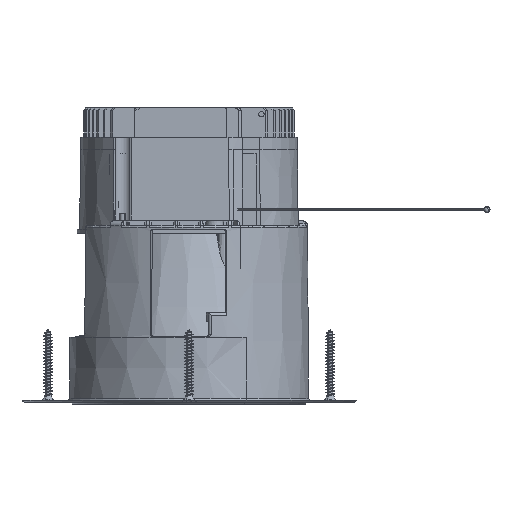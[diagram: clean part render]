
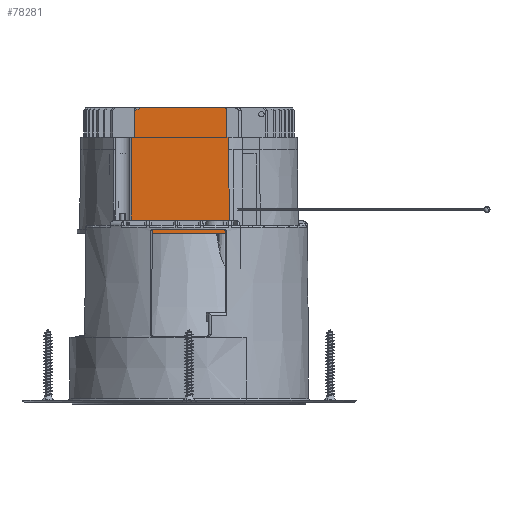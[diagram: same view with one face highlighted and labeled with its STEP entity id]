
A CAD part, front view. The second image highlights one B-rep face of the part: STEP entity #78281.
In plain terms, the highlighted planar face has unit normal (0, -1, 0).
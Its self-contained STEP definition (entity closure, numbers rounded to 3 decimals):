
#67818=DIRECTION('',(-1.,0.,0.));
#67819=VECTOR('',#67818,49.989);
#67820=CARTESIAN_POINT('',(19.477,-44.25,0.));
#67821=LINE('',#67820,#67819);
#68317=DIRECTION('',(1.,0.,0.));
#68318=VECTOR('',#68317,0.673);
#68319=CARTESIAN_POINT('',(18.117,-44.25,46.));
#68320=LINE('',#68319,#68318);
#68321=DIRECTION('',(1.,0.,0.));
#68322=VECTOR('',#68321,1.463);
#68323=CARTESIAN_POINT('',(-27.58,-44.25,46.));
#68324=LINE('',#68323,#68322);
#68838=DIRECTION('',(-1.,0.,0.));
#68839=VECTOR('',#68838,40.397);
#68840=CARTESIAN_POINT('',(17.117,-44.25,60.));
#68841=LINE('',#68840,#68839);
#69718=DIRECTION('',(-1.,0.,0.));
#69719=VECTOR('',#69718,2.932);
#69720=CARTESIAN_POINT('',(-27.58,-44.25,2.));
#69721=LINE('',#69720,#69719);
#69897=DIRECTION('',(0.,0.,-1.));
#69898=VECTOR('',#69897,2.);
#69899=CARTESIAN_POINT('',(-30.512,-44.25,2.));
#69900=LINE('',#69899,#69898);
#69996=DIRECTION('',(0.,0.,-1.));
#69997=VECTOR('',#69996,13.);
#69998=CARTESIAN_POINT('',(18.117,-44.25,59.));
#69999=LINE('',#69998,#69997);
#70000=CARTESIAN_POINT('',(18.789,-44.248,40.));
#70001=CARTESIAN_POINT('',(19.021,-44.248,
26.667));
#70002=CARTESIAN_POINT('',(19.25,-44.25,13.333));
#70003=CARTESIAN_POINT('',(19.477,-44.25,0.));
#70005=DIRECTION('',(0.,0.,1.));
#70006=VECTOR('',#70005,44.);
#70007=CARTESIAN_POINT('',(-27.58,-44.25,2.));
#70008=LINE('',#70007,#70006);
#70009=DIRECTION('',(0.,0.,1.));
#70010=VECTOR('',#70009,11.704);
#70011=CARTESIAN_POINT('',(-26.117,-44.25,46.));
#70012=LINE('',#70011,#70010);
#70013=CARTESIAN_POINT('',(-25.47,-44.25,
58.943));
#70014=CARTESIAN_POINT('',(-25.223,-44.25,
59.067));
#70015=CARTESIAN_POINT('',(-24.732,-44.25,
59.309));
#70016=CARTESIAN_POINT('',(-24.002,-44.25,
59.661));
#70017=CARTESIAN_POINT('',(-23.52,-44.25,59.888));
#70018=CARTESIAN_POINT('',(-23.28,-44.25,60.));
#70028=CARTESIAN_POINT('',(17.117,-44.25,59.));
#70029=DIRECTION('',(0.,-1.,0.));
#70030=DIRECTION('',(1.,0.,0.));
#70031=AXIS2_PLACEMENT_3D('',#70028,#70029,#70030);
#73795=CARTESIAN_POINT('',(-25.47,-44.25,
58.943));
#73801=CARTESIAN_POINT('',(-25.47,-44.25,
58.943));
#73802=CARTESIAN_POINT('',(-25.561,-44.25,
58.898));
#73803=CARTESIAN_POINT('',(-25.726,-44.25,
58.777));
#73804=CARTESIAN_POINT('',(-25.936,-44.25,
58.499));
#73805=CARTESIAN_POINT('',(-26.079,-44.25,
58.136));
#73806=CARTESIAN_POINT('',(-26.117,-44.25,57.856));
#73807=CARTESIAN_POINT('',(-26.117,-44.25,57.704));
#73831=DIRECTION('',(0.,0.,1.));
#73832=VECTOR('',#73831,6.);
#73833=CARTESIAN_POINT('',(18.789,-44.248,40.));
#73834=LINE('',#73833,#73832);
#73852=CARTESIAN_POINT('',(18.789,-44.248,40.));
#74161=CARTESIAN_POINT('',(-30.512,-44.25,0.));
#74162=VERTEX_POINT('',#74161);
#74169=CARTESIAN_POINT('',(19.477,-44.25,0.));
#74170=VERTEX_POINT('',#74169);
#74173=CARTESIAN_POINT('',(-30.512,-44.25,2.));
#74174=VERTEX_POINT('',#74173);
#74181=CARTESIAN_POINT('',(-27.58,-44.25,2.));
#74182=VERTEX_POINT('',#74181);
#74234=CARTESIAN_POINT('',(-23.28,-44.25,60.));
#74236=VERTEX_POINT('',#74234);
#74439=CARTESIAN_POINT('',(18.117,-44.25,59.));
#74441=VERTEX_POINT('',#74439);
#74443=CARTESIAN_POINT('',(17.117,-44.25,60.));
#74444=VERTEX_POINT('',#74443);
#74447=VERTEX_POINT('',#73795);
#74449=VERTEX_POINT('',#73807);
#74913=CARTESIAN_POINT('',(-27.58,-44.25,46.));
#74914=VERTEX_POINT('',#74913);
#74943=VERTEX_POINT('',#73852);
#75096=CARTESIAN_POINT('',(-26.117,-44.25,46.));
#75097=VERTEX_POINT('',#75096);
#75102=CARTESIAN_POINT('',(18.117,-44.25,46.));
#75103=VERTEX_POINT('',#75102);
#75118=CARTESIAN_POINT('',(18.79,-44.25,46.));
#75119=VERTEX_POINT('',#75118);
#78252=CARTESIAN_POINT('',(30.512,-44.25,60.));
#78253=DIRECTION('',(0.,1.,0.));
#78254=DIRECTION('',(-1.,0.,0.));
#78255=AXIS2_PLACEMENT_3D('',#78252,#78253,#78254);
#78256=PLANE('',#78255);
#78258=ORIENTED_EDGE('',*,*,#78257,.T.);
#78259=ORIENTED_EDGE('',*,*,#75810,.T.);
#78261=ORIENTED_EDGE('',*,*,#78260,.F.);
#78263=ORIENTED_EDGE('',*,*,#78262,.T.);
#78264=ORIENTED_EDGE('',*,*,#75667,.T.);
#78265=ORIENTED_EDGE('',*,*,#78050,.F.);
#78266=ORIENTED_EDGE('',*,*,#77780,.F.);
#78268=ORIENTED_EDGE('',*,*,#78267,.T.);
#78269=ORIENTED_EDGE('',*,*,#75818,.T.);
#78271=ORIENTED_EDGE('',*,*,#78270,.T.);
#78273=ORIENTED_EDGE('',*,*,#78272,.F.);
#78275=ORIENTED_EDGE('',*,*,#78274,.T.);
#78276=ORIENTED_EDGE('',*,*,#76784,.F.);
#78278=ORIENTED_EDGE('',*,*,#78277,.F.);
#78279=EDGE_LOOP('',(#78258,#78259,#78261,#78263,#78264,#78265,#78266,#78268,
#78269,#78271,#78273,#78275,#78276,#78278));
#78280=FACE_OUTER_BOUND('',#78279,.F.);
#78281=ADVANCED_FACE('',(#78280),#78256,.F.);
#70004=B_SPLINE_CURVE_WITH_KNOTS('',3,(#70000,#70001,#70002,#70003),
.UNSPECIFIED.,.F.,.F.,(4,4),(0.,1.),.UNSPECIFIED.);
#70019=B_SPLINE_CURVE_WITH_KNOTS('',3,(#70013,#70014,#70015,#70016,#70017,
#70018),.UNSPECIFIED.,.F.,.F.,(4,1,1,4),(0.,0.333,
0.667,1.),.UNSPECIFIED.);
#70032=CIRCLE('',#70031,1.);
#73808=B_SPLINE_CURVE_WITH_KNOTS('',3,(#73801,#73802,#73803,#73804,#73805,
#73806,#73807),.UNSPECIFIED.,.F.,.F.,(4,1,1,1,4),(0.,0.25,0.5,0.75,
1.),.UNSPECIFIED.);
#75667=EDGE_CURVE('',#74170,#74162,#67821,.T.);
#75810=EDGE_CURVE('',#75103,#75119,#68320,.T.);
#75818=EDGE_CURVE('',#74914,#75097,#68324,.T.);
#76784=EDGE_CURVE('',#74444,#74236,#68841,.T.);
#77780=EDGE_CURVE('',#74182,#74174,#69721,.T.);
#78050=EDGE_CURVE('',#74174,#74162,#69900,.T.);
#78257=EDGE_CURVE('',#74441,#75103,#69999,.T.);
#78260=EDGE_CURVE('',#74943,#75119,#73834,.T.);
#78262=EDGE_CURVE('',#74943,#74170,#70004,.T.);
#78267=EDGE_CURVE('',#74182,#74914,#70008,.T.);
#78270=EDGE_CURVE('',#75097,#74449,#70012,.T.);
#78272=EDGE_CURVE('',#74447,#74449,#73808,.T.);
#78274=EDGE_CURVE('',#74447,#74236,#70019,.T.);
#78277=EDGE_CURVE('',#74441,#74444,#70032,.T.);
